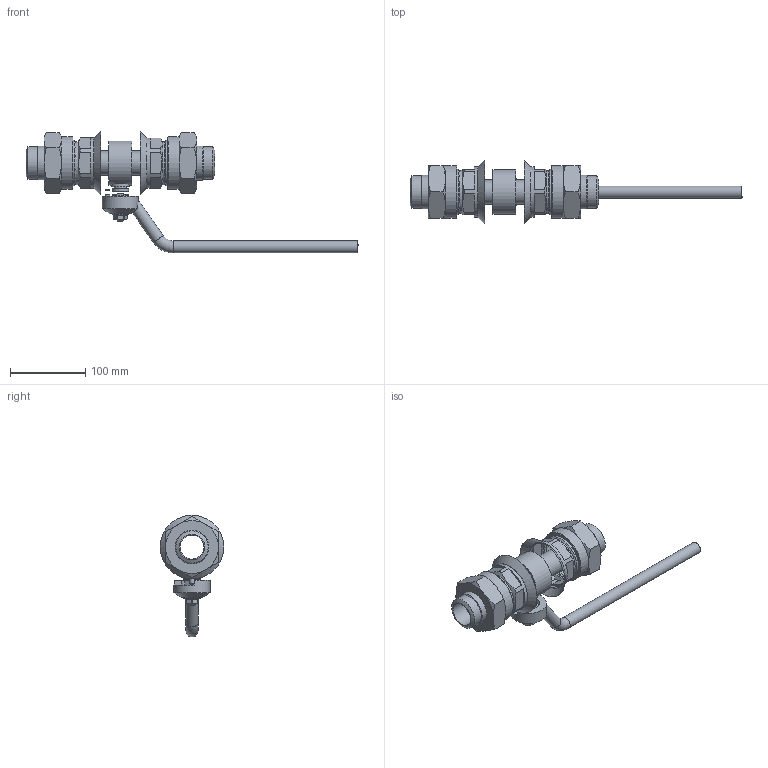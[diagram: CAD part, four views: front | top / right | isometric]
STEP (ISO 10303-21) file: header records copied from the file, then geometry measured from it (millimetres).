
FILE_DESCRIPTION(('STEP AP203'), '1');
FILE_NAME('ZARDP 032.160.30.P.stp', '2013-12-06T06:33:13', ('Øèøêî'), ('ÎÎÎ ÈÊ Ýíåðïðåä-ßðäîñ'), 'ASCON STEP Converter 1.3', 'Kompas 3D', '');
FILE_SCHEMA(('CONFIG_CONTROL_DESIGN','SUPPORT_RESOURCE_SCHEMA'));
Length unit declared in the file: millimetre
Products named in the file (1): 85
Bounding box: 440.01 x 84.5 x 161.25 mm (x, y, z)
Volume: 14320.1 mm3; surface area: 138589.2 mm2
Topology: 8 solids, 9 shells, 271 faces, 613 edges, 382 vertices
Faces by surface type: plane 122, cylinder 74, cone 61, torus 12, bspline 2
Full cylindrical faces by diameter (mm): 6 x2, 10 x2, 16 x3, 16.1 x1, 21.8 x1, 22 x2, 24.3 x1, 24.5 x1, 32 x4, 43 x2, 45 x2, 48 x1, 50 x2, 57 x2, 57.835 x2, 58.4 x1, 60 x2, 66.4 x2, 70 x2, 84.5 x1
Entity records: 10574 total; most frequent: CARTESIAN_POINT 4398, DIRECTION 1315, ORIENTED_EDGE 1224, EDGE_CURVE 613, AXIS2_PLACEMENT_3D 535, VERTEX_POINT 382, EDGE_LOOP 304, ADVANCED_FACE 271
